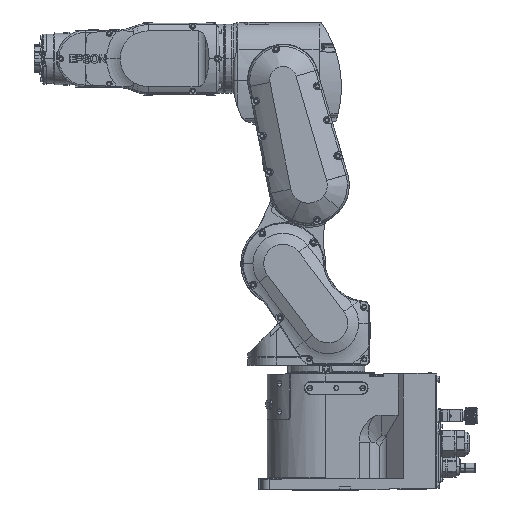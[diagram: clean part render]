
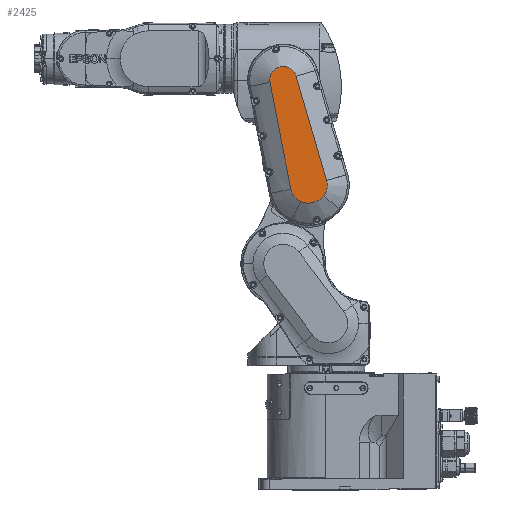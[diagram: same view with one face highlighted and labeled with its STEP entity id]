
A CAD part, top view. The second image highlights one B-rep face of the part: STEP entity #2425.
In plain terms, the highlighted planar face has unit normal (0, 0, 1).
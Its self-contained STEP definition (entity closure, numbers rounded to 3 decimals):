
#1783 = EDGE_CURVE ( 'NONE', #187430, #66372, #14998, .T. ) ;
#2425 = ADVANCED_FACE ( 'NONE', ( #12208 ), #84444, .F. ) ;
#3619 = CARTESIAN_POINT ( 'NONE',  ( 38.414, 110.842, 110. ) ) ;
#6376 = VERTEX_POINT ( 'NONE', #119110 ) ;
#11758 = DIRECTION ( 'NONE',  ( 0.96, 0.281, 0. ) ) ;
#12208 = FACE_OUTER_BOUND ( 'NONE', #57834, .T. ) ;
#14998 = LINE ( 'NONE', #160297, #74170 ) ;
#15956 = DIRECTION ( 'NONE',  ( -0.982, -0.191, 0. ) ) ;
#29316 = DIRECTION ( 'NONE',  ( 0., 0., 1. ) ) ;
#32089 = CARTESIAN_POINT ( 'NONE',  ( 18.224, 265.344, 110. ) ) ;
#33001 = CARTESIAN_POINT ( 'NONE',  ( 47.041, 166.832, 110. ) ) ;
#33206 = CARTESIAN_POINT ( 'NONE',  ( -18.653, 256.374, 110. ) ) ;
#39977 = EDGE_CURVE ( 'NONE', #111932, #64894, #119967, .T. ) ;
#40113 = ORIENTED_EDGE ( 'NONE', *, *, #39977, .T. ) ;
#43195 = LINE ( 'NONE', #103048, #115774 ) ;
#45398 = B_SPLINE_CURVE_WITH_KNOTS ( 'NONE', 3,
 ( #57823, #33001, #87285, #32089 ),
 .UNSPECIFIED., .F., .F.,
 ( 4, 4 ),
 ( 0., 1. ),
 .UNSPECIFIED. ) ;
#46519 = CARTESIAN_POINT ( 'NONE',  ( 10.716, 105.265, 110. ) ) ;
#47130 = EDGE_CURVE ( 'NONE', #90592, #6376, #115858, .T. ) ;
#51761 = CARTESIAN_POINT ( 'NONE',  ( -18.642, 256.376, 110. ) ) ;
#52698 = EDGE_CURVE ( 'NONE', #6376, #111932, #60575, .T. ) ;
#57823 = CARTESIAN_POINT ( 'NONE',  ( 61.449, 117.576, 110. ) ) ;
#57834 = EDGE_LOOP ( 'NONE', ( #160799, #130177, #122619, #69007, #173659, #40113, #152154, #163339, #168630 ) ) ;
#58073 = VERTEX_POINT ( 'NONE', #91308 ) ;
#58759 = DIRECTION ( 'NONE',  ( -0.982, -0.191, 0. ) ) ;
#59367 = CARTESIAN_POINT ( 'NONE',  ( 57.085, 95.777, 110. ) ) ;
#60575 = CIRCLE ( 'NONE', #154592, 27.491 ) ;
#64231 = AXIS2_PLACEMENT_3D ( 'NONE', #69395, #72213, #141540 ) ;
#64894 = VERTEX_POINT ( 'NONE', #187292 ) ;
#66372 = VERTEX_POINT ( 'NONE', #33206 ) ;
#67469 = EDGE_CURVE ( 'NONE', #151438, #58073, #45398, .T. ) ;
#69007 = ORIENTED_EDGE ( 'NONE', *, *, #47130, .T. ) ;
#69395 = CARTESIAN_POINT ( 'NONE',  ( 0., 260., 110. ) ) ;
#72213 = DIRECTION ( 'NONE',  ( 0., 0., 1. ) ) ;
#73973 = CARTESIAN_POINT ( 'NONE',  ( 24.508, 87.926, 110. ) ) ;
#74170 = VECTOR ( 'NONE', #58759, 1000. ) ;
#76751 = DIRECTION ( 'NONE',  ( 0., 0., 1. ) ) ;
#84444 = PLANE ( 'NONE',  #168033 ) ;
#87285 = CARTESIAN_POINT ( 'NONE',  ( 32.632, 216.088, 110. ) ) ;
#90592 = VERTEX_POINT ( 'NONE', #46519 ) ;
#91308 = CARTESIAN_POINT ( 'NONE',  ( 18.224, 265.344, 110. ) ) ;
#92172 = CARTESIAN_POINT ( 'NONE',  ( -18.653, 256.374, 110. ) ) ;
#92575 = EDGE_CURVE ( 'NONE', #64894, #151438, #127662, .T. ) ;
#101217 = DIRECTION ( 'NONE',  ( 0.982, 0.191, 0. ) ) ;
#101512 = DIRECTION ( 'NONE',  ( 0., 0., -1. ) ) ;
#103048 = CARTESIAN_POINT ( 'NONE',  ( 10.716, 105.265, 110. ) ) ;
#103116 = EDGE_CURVE ( 'NONE', #66372, #184288, #181299, .T. ) ;
#106661 = CIRCLE ( 'NONE', #64231, 18.991 ) ;
#111932 = VERTEX_POINT ( 'NONE', #59367 ) ;
#112339 = DIRECTION ( 'NONE',  ( 0., 0., 1. ) ) ;
#115774 = VECTOR ( 'NONE', #101217, 1000. ) ;
#115858 = CIRCLE ( 'NONE', #182489, 23.991 ) ;
#116313 = VECTOR ( 'NONE', #165262, 1000. ) ;
#119110 = CARTESIAN_POINT ( 'NONE',  ( 24.508, 87.926, 110. ) ) ;
#119967 = CIRCLE ( 'NONE', #147168, 23.991 ) ;
#122619 = ORIENTED_EDGE ( 'NONE', *, *, #152775, .F. ) ;
#123532 = CARTESIAN_POINT ( 'NONE',  ( 10.719, 105.265, 110. ) ) ;
#127508 = CARTESIAN_POINT ( 'NONE',  ( 35.69, 113.04, 110. ) ) ;
#127662 = LINE ( 'NONE', #141853, #129106 ) ;
#127828 = EDGE_CURVE ( 'NONE', #58073, #187430, #106661, .T. ) ;
#129106 = VECTOR ( 'NONE', #11758, 1000. ) ;
#130177 = ORIENTED_EDGE ( 'NONE', *, *, #103116, .T. ) ;
#130898 = CARTESIAN_POINT ( 'NONE',  ( 34.266, 109.843, 110. ) ) ;
#132777 = DIRECTION ( 'NONE',  ( 0., -1., 0. ) ) ;
#135576 = DIRECTION ( 'NONE',  ( 0.778, -0.628, 0. ) ) ;
#141540 = DIRECTION ( 'NONE',  ( 0.96, 0.281, 0. ) ) ;
#141853 = CARTESIAN_POINT ( 'NONE',  ( 61.441, 117.574, 110. ) ) ;
#147168 = AXIS2_PLACEMENT_3D ( 'NONE', #3619, #76751, #135576 ) ;
#151438 = VERTEX_POINT ( 'NONE', #175571 ) ;
#152154 = ORIENTED_EDGE ( 'NONE', *, *, #92575, .T. ) ;
#152775 = EDGE_CURVE ( 'NONE', #90592, #184288, #43195, .T. ) ;
#154592 = AXIS2_PLACEMENT_3D ( 'NONE', #127508, #112339, #183509 ) ;
#160297 = CARTESIAN_POINT ( 'NONE',  ( -18.642, 256.376, 110. ) ) ;
#160799 = ORIENTED_EDGE ( 'NONE', *, *, #1783, .T. ) ;
#163339 = ORIENTED_EDGE ( 'NONE', *, *, #67469, .T. ) ;
#165262 = DIRECTION ( 'NONE',  ( 0.191, -0.982, 0. ) ) ;
#168033 = AXIS2_PLACEMENT_3D ( 'NONE', #73973, #101512, #132777 ) ;
#168630 = ORIENTED_EDGE ( 'NONE', *, *, #127828, .T. ) ;
#173659 = ORIENTED_EDGE ( 'NONE', *, *, #52698, .T. ) ;
#175571 = CARTESIAN_POINT ( 'NONE',  ( 61.449, 117.576, 110. ) ) ;
#181299 = LINE ( 'NONE', #92172, #116313 ) ;
#182489 = AXIS2_PLACEMENT_3D ( 'NONE', #130898, #29316, #15956 ) ;
#183509 = DIRECTION ( 'NONE',  ( -0.407, -0.914, 0. ) ) ;
#184288 = VERTEX_POINT ( 'NONE', #123532 ) ;
#187292 = CARTESIAN_POINT ( 'NONE',  ( 61.441, 117.574, 110. ) ) ;
#187430 = VERTEX_POINT ( 'NONE', #51761 ) ;
